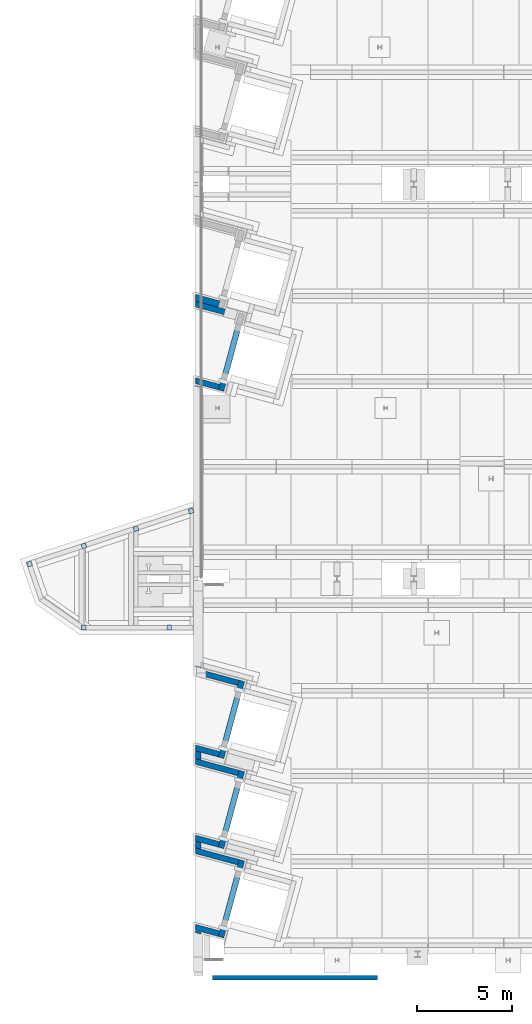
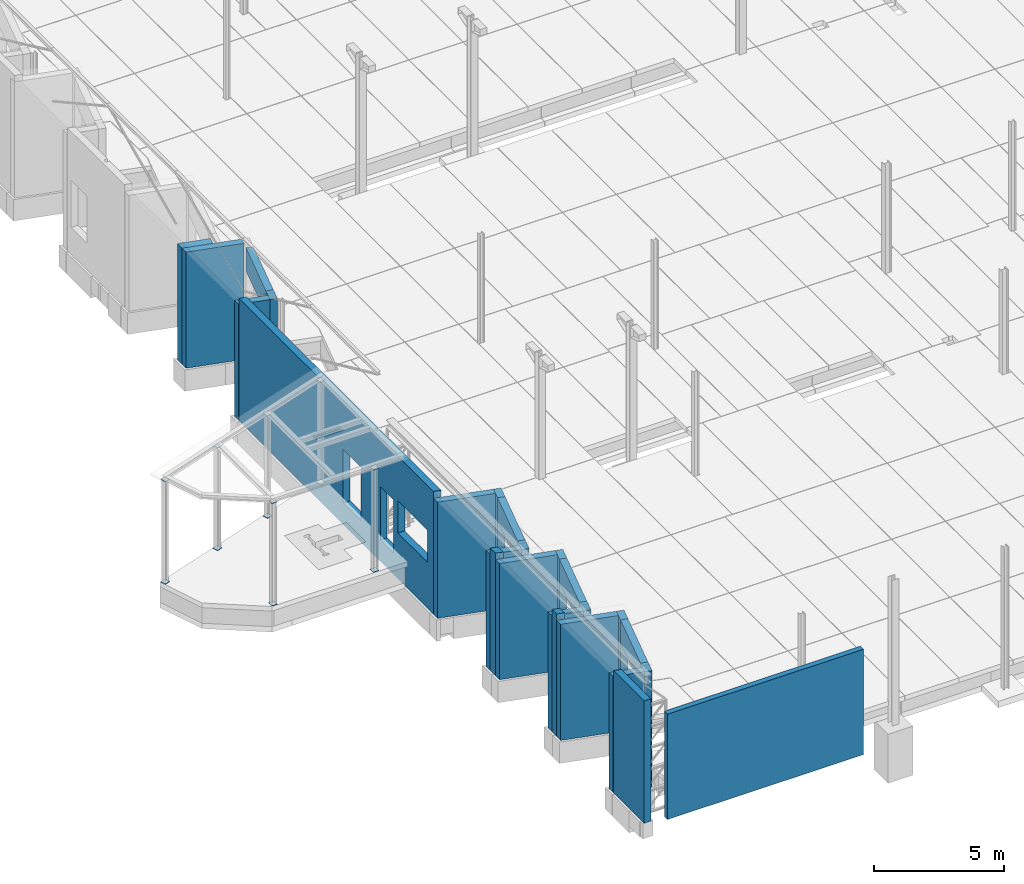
# One storey, part 54 of 59: 25 walls, 12 plates, 4 openings.
"""IFC2X3 building model written with IfcOpenShell, lengths in metres."""

from ifc_helpers import new_model, entity, si_unit, converted_unit, derived_unit, frame, frame_2d, origin, origin_with_axes, place, context, subcontext, project, spatial, polyline, rectangle, outline, extrude, faceted_brep, material, layer, layer_set, layer_usage, element, save


model = new_model("IFC2X3")

# Units and contexts
model_context = context("Model", 3, precision=1e-05, world=origin())
body_context = subcontext(model_context, "Body", "Model", "MODEL_VIEW")
ifc_project = project(units=[si_unit("LENGTHUNIT", "METRE"), si_unit("AREAUNIT", "SQUARE_METRE"), si_unit("VOLUMEUNIT", "CUBIC_METRE"), si_unit("MASSUNIT", "GRAM", prefix="KILO"), converted_unit("PLANEANGLEUNIT", "DEGREE", entity("IfcPlaneAngleMeasure", 0.0174532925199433), si_unit("PLANEANGLEUNIT", "RADIAN"), dimensions=[0, 0, 0, 0, 0, 0, 0]), derived_unit("THERMALTRANSMITTANCEUNIT", [(si_unit("POWERUNIT", "WATT"), 1), (si_unit("THERMODYNAMICTEMPERATUREUNIT", "KELVIN"), -1), (si_unit("LENGTHUNIT", "METRE"), -2)]), derived_unit("VOLUMETRICFLOWRATEUNIT", [(si_unit("LENGTHUNIT", "METRE"), 3), (converted_unit("TIMEUNIT", "hour", entity("IfcTimeMeasure", 3600.0), si_unit("TIMEUNIT", "SECOND"), dimensions=[0, 0, 1, 0, 0, 0, 0]), -1), (si_unit("LENGTHUNIT", "METRE"), -1)])], contexts=[model_context])

# Site, building, storey
site_placement = place(None, origin())
site = spatial("IfcSite", under=ifc_project, at=site_placement, Name="TWP_Speiseverteilzentrum SBW VZ II", CompositionType="ELEMENT")
building_placement = place(site_placement, origin())
building = spatial("IfcBuilding", under=site, at=building_placement, Name="Speiseverteilzentrum SBW VZ II", CompositionType="ELEMENT")
storey_placement = place(building_placement, frame((0.0, 0.0, 1.7307)))
storey = spatial("IfcBuildingStorey", under=building, at=storey_placement, Name="EG_Produktion_FFB", CompositionType="ELEMENT", Elevation=1.7307)

# Plates
ifc_material_1 = material(Name="S235")
plate_1_placement = place(storey_placement, frame((0.435475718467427, 31.4189515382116, 0.0)))
element("IfcPlate", 1, at=plate_1_placement, inside=storey, material=ifc_material_1, Name="Fußplatte", ObjectType="PLATE", context=body_context, shape_type="Brep", body=[
    faceted_brep([(0.237296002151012, 0.315976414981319, 0.0), (0.237296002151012, 0.315976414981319, 0.015), (0.0, 0.237296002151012, 0.015), (0.0, 0.237296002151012, 0.0), (0.0786804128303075, 0.0, 0.0), (0.315976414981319, 0.0786804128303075, 0.0), (0.315976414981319, 0.0786804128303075, 0.015), (0.0786804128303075, 0.0, 0.015)], [[[0, 1, 2, 3]], [[4, 5, 0, 3]], [[5, 6, 1, 0]], [[6, 7, 2, 1]], [[7, 6, 5, 4]], [[4, 3, 2, 7]]], orient=[[False], [False], [False], [False], [False], [False]]),
])
ifc_material_2 = material(Name="S235")
plate_2_placement = place(storey_placement, frame((3.29771696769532, 32.3679870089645, 0.0)))
element("IfcPlate", 2, at=plate_2_placement, inside=storey, material=ifc_material_2, Name="Fußplatte", ObjectType="PLATE", context=body_context, shape_type="Brep", body=[
    faceted_brep([(0.237296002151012, 0.315976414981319, 0.0), (0.237296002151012, 0.315976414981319, 0.015), (0.0, 0.237296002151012, 0.015), (0.0, 0.237296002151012, 0.0), (0.0786804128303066, 0.0, 0.0), (0.315976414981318, 0.0786804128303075, 0.0), (0.315976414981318, 0.0786804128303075, 0.015), (0.0786804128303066, 0.0, 0.015)], [[[0, 1, 2, 3]], [[4, 5, 0, 3]], [[5, 6, 1, 0]], [[6, 7, 2, 1]], [[7, 6, 5, 4]], [[4, 3, 2, 7]]], orient=[[False], [False], [False], [False], [False], [False]]),
])
ifc_material_3 = material(Name="S235")
plate_3_placement = place(storey_placement, frame((6.05035059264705, 33.2806797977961, 0.0)))
element("IfcPlate", 3, at=plate_3_placement, inside=storey, material=ifc_material_3, Name="Fußplatte", ObjectType="PLATE", context=body_context, shape_type="Brep", body=[
    faceted_brep([(0.237296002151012, 0.315976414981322, 0.0), (0.237296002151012, 0.315976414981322, 0.015), (0.0, 0.237296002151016, 0.015), (0.0, 0.237296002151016, 0.0), (0.0786804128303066, 0.0, 0.0), (0.315976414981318, 0.0786804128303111, 0.0), (0.315976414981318, 0.0786804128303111, 0.015), (0.0786804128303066, 0.0, 0.015)], [[[0, 1, 2, 3]], [[4, 5, 0, 3]], [[5, 6, 1, 0]], [[6, 7, 2, 1]], [[7, 6, 5, 4]], [[4, 3, 2, 7]]], orient=[[False], [False], [False], [False], [False], [False]]),
])
ifc_material_4 = material(Name="S235")
plate_4_placement = place(storey_placement, frame((3.33070517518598, 28.1099999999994, 0.0)))
element("IfcPlate", 4, at=plate_4_placement, inside=storey, material=ifc_material_4, Name="Fußplatte", ObjectType="PLATE", context=body_context, shape_type="Brep", body=[
    faceted_brep([(0.25, 0.25, 0.0), (0.25, 0.25, 0.015), (0.0, 0.25, 0.015), (0.0, 0.25, 0.0), (0.0, 0.0, 0.0), (0.25, 0.0, 0.0), (0.25, 0.0, 0.015), (0.0, 0.0, 0.015)], [[[0, 1, 2, 3]], [[4, 5, 0, 3]], [[5, 6, 1, 0]], [[6, 7, 2, 1]], [[7, 6, 5, 4]], [[4, 3, 2, 7]]], orient=[[False], [False], [False], [False], [False], [False]]),
])
ifc_material_5 = material(Name="S235")
plate_5_placement = place(storey_placement, frame((7.83070517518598, 28.1099999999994, 0.0)))
element("IfcPlate", 5, at=plate_5_placement, inside=storey, material=ifc_material_5, Name="Fußplatte", ObjectType="PLATE", context=body_context, shape_type="Brep", body=[
    faceted_brep([(0.25, 0.25, 0.0), (0.25, 0.25, 0.015), (0.0, 0.25, 0.015), (0.0, 0.25, 0.0), (0.0, 0.0, 0.0), (0.25, 0.0, 0.0), (0.25, 0.0, 0.015), (0.0, 0.0, 0.015)], [[[0, 1, 2, 3]], [[4, 5, 0, 3]], [[5, 6, 1, 0]], [[6, 7, 2, 1]], [[7, 6, 5, 4]], [[4, 3, 2, 7]]], orient=[[False], [False], [False], [False], [False], [False]]),
])
ifc_material_6 = material(Name="S235")
plate_6_placement = place(storey_placement, frame((0.435475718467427, 31.4189515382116, 4.8038)))
element("IfcPlate", 6, at=plate_6_placement, inside=storey, material=ifc_material_6, Name="Kopfplatte", ObjectType="PLATE", context=body_context, shape_type="Brep", body=[
    faceted_brep([(0.237296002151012, 0.315976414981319, 0.0), (0.237296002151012, 0.315976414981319, 0.015), (0.0, 0.237296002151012, 0.015), (0.0, 0.237296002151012, 0.0), (0.0786804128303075, 0.0, 0.0), (0.315976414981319, 0.0786804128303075, 0.0), (0.315976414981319, 0.0786804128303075, 0.015), (0.0786804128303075, 0.0, 0.015)], [[[0, 1, 2, 3]], [[4, 5, 0, 3]], [[5, 6, 1, 0]], [[6, 7, 2, 1]], [[7, 6, 5, 4]], [[4, 3, 2, 7]]], orient=[[False], [False], [False], [False], [False], [False]]),
])
ifc_material_7 = material(Name="S235")
plate_7_placement = place(storey_placement, frame((3.29771696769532, 32.3679870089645, 4.8038)))
element("IfcPlate", 7, at=plate_7_placement, inside=storey, material=ifc_material_7, Name="Kopfplatte", ObjectType="PLATE", context=body_context, shape_type="Brep", body=[
    faceted_brep([(0.237296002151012, 0.315976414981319, 0.0), (0.237296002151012, 0.315976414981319, 0.015), (0.0, 0.237296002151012, 0.015), (0.0, 0.237296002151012, 0.0), (0.0786804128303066, 0.0, 0.0), (0.315976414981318, 0.0786804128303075, 0.0), (0.315976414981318, 0.0786804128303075, 0.015), (0.0786804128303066, 0.0, 0.015)], [[[0, 1, 2, 3]], [[4, 5, 0, 3]], [[5, 6, 1, 0]], [[6, 7, 2, 1]], [[7, 6, 5, 4]], [[4, 3, 2, 7]]], orient=[[False], [False], [False], [False], [False], [False]]),
])
ifc_material_8 = material(Name="S235")
plate_8_placement = place(storey_placement, frame((3.33070517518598, 28.1099999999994, 4.8038)))
element("IfcPlate", 8, at=plate_8_placement, inside=storey, material=ifc_material_8, Name="Kopfplatte", ObjectType="PLATE", context=body_context, shape_type="Brep", body=[
    faceted_brep([(0.25, 0.25, 0.0), (0.25, 0.25, 0.015), (0.0, 0.25, 0.015), (0.0, 0.25, 0.0), (0.0, 0.0, 0.0), (0.25, 0.0, 0.0), (0.25, 0.0, 0.015), (0.0, 0.0, 0.015)], [[[0, 1, 2, 3]], [[4, 5, 0, 3]], [[5, 6, 1, 0]], [[6, 7, 2, 1]], [[7, 6, 5, 4]], [[4, 3, 2, 7]]], orient=[[False], [False], [False], [False], [False], [False]]),
])
ifc_material_9 = material(Name="S235")
plate_9_placement = place(storey_placement, frame((6.05035059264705, 33.2806797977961, 4.8038)))
element("IfcPlate", 9, at=plate_9_placement, inside=storey, material=ifc_material_9, Name="Kopfplatte", ObjectType="PLATE", context=body_context, shape_type="Brep", body=[
    faceted_brep([(0.237296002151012, 0.315976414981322, 0.0), (0.237296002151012, 0.315976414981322, 0.015), (0.0, 0.237296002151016, 0.015), (0.0, 0.237296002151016, 0.0), (0.0786804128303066, 0.0, 0.0), (0.315976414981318, 0.0786804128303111, 0.0), (0.315976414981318, 0.0786804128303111, 0.015), (0.0786804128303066, 0.0, 0.015)], [[[0, 1, 2, 3]], [[4, 5, 0, 3]], [[5, 6, 1, 0]], [[6, 7, 2, 1]], [[7, 6, 5, 4]], [[4, 3, 2, 7]]], orient=[[False], [False], [False], [False], [False], [False]]),
])
ifc_material_10 = material(Name="S235")
plate_10_placement = place(storey_placement, frame((7.83070517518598, 28.1099999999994, 4.8038)))
element("IfcPlate", 10, at=plate_10_placement, inside=storey, material=ifc_material_10, Name="Kopfplatte", ObjectType="PLATE", context=body_context, shape_type="Brep", body=[
    faceted_brep([(0.25, 0.25, 0.0), (0.25, 0.25, 0.015), (0.0, 0.25, 0.015), (0.0, 0.25, 0.0), (0.0, 0.0, 0.0), (0.25, 0.0, 0.0), (0.25, 0.0, 0.015), (0.0, 0.0, 0.015)], [[[0, 1, 2, 3]], [[4, 5, 0, 3]], [[5, 6, 1, 0]], [[6, 7, 2, 1]], [[7, 6, 5, 4]], [[4, 3, 2, 7]]], orient=[[False], [False], [False], [False], [False], [False]]),
])
ifc_material_11 = material(Name="S235")
plate_11_placement = place(storey_placement, frame((8.95502358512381, 34.2072639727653, 0.0)))
element("IfcPlate", 11, at=plate_11_placement, inside=storey, material=ifc_material_11, Name="Fußplatte", ObjectType="PLATE", context=body_context, shape_type="Brep", body=[
    faceted_brep([(0.237296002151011, 0.315976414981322, 0.0), (0.237296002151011, 0.315976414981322, 0.015), (0.0, 0.237296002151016, 0.015), (0.0, 0.237296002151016, 0.0), (0.0786804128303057, 0.0, 0.0), (0.315976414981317, 0.0786804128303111, 0.0), (0.315976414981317, 0.0786804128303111, 0.015), (0.0786804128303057, 0.0, 0.015)], [[[0, 1, 2, 3]], [[4, 5, 0, 3]], [[5, 6, 1, 0]], [[6, 7, 2, 1]], [[7, 6, 5, 4]], [[4, 3, 2, 7]]], orient=[[False], [False], [False], [False], [False], [False]]),
])
ifc_material_12 = material(Name="S235")
plate_12_placement = place(storey_placement, frame((8.95502358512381, 34.2072639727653, 4.8038)))
element("IfcPlate", 12, at=plate_12_placement, inside=storey, material=ifc_material_12, Name="Kopfplatte", ObjectType="PLATE", context=body_context, shape_type="Brep", body=[
    faceted_brep([(0.237296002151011, 0.315976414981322, 0.0), (0.237296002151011, 0.315976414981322, 0.015), (0.0, 0.237296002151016, 0.015), (0.0, 0.237296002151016, 0.0), (0.0786804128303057, 0.0, 0.0), (0.315976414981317, 0.0786804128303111, 0.0), (0.315976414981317, 0.0786804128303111, 0.015), (0.0786804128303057, 0.0, 0.015)], [[[0, 1, 2, 3]], [[4, 5, 0, 3]], [[5, 6, 1, 0]], [[6, 7, 2, 1]], [[7, 6, 5, 4]], [[4, 3, 2, 7]]], orient=[[False], [False], [False], [False], [False], [False]]),
])

# Walls
ifc_material_13 = material(Name="Stahlbeton")
ifc_layer_1 = layer(ifc_material_13, 0.29999999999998)
ifc_layer_set_1 = layer_set([ifc_layer_1], Name="HA_WAN_STB_0,300_xxx")
ifc_layer_usage_1 = layer_usage(ifc_layer_set_1, "AXIS2", "POSITIVE", 0.0)
wall_1_placement = place(storey_placement, frame((10.6989640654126, 12.5261194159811, -1.25), z_axis=(0.0, 0.0, 1.0), x_axis=(-0.261013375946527, -0.965335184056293, 0.0)))
element("IfcWallStandardCase", 13, at=wall_1_placement, inside=storey, material=ifc_layer_usage_1, Name="Stb.-Rahmen", context=body_context, shape_type="SweptSolid", body=[
    extrude(rectangle(XDim=0.599999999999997, YDim=0.29999999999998, at=frame_2d((0.299999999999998, 0.14999999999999), x_axis=(1.0, 0.0))), origin_with_axes(), (0.0, 0.0, 1.0), 5.45),
])
ifc_material_14 = material(Name="Stahlbeton")
ifc_layer_2 = layer(ifc_material_14, 0.299999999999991)
ifc_layer_set_2 = layer_set([ifc_layer_2], Name="HA_WAN_STB_0,300_xxx")
ifc_layer_usage_2 = layer_usage(ifc_layer_set_2, "AXIS2", "POSITIVE", 0.0)
wall_2_placement = place(storey_placement, frame((11.4818206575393, 15.4214461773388, 3.12), z_axis=(0.0, 0.0, 1.0), x_axis=(-0.261013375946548, -0.965335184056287, 0.0)))
element("IfcWallStandardCase", 14, at=wall_2_placement, inside=storey, material=ifc_layer_usage_2, Name="Stb.-Rahmen", context=body_context, shape_type="SweptSolid", body=[
    extrude(rectangle(XDim=2.99929683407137, YDim=0.299999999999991, at=frame_2d((1.49964841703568, 0.149999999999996), x_axis=(1.0, 0.0))), origin_with_axes(), (0.0, 0.0, 1.0), 1.08),
])
ifc_material_15 = material(Name="Stahlbeton")
ifc_layer_3 = layer(ifc_material_15, 0.299999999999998)
ifc_layer_set_3 = layer_set([ifc_layer_3], Name="HA_WAN_STB_0,300_xxx")
ifc_layer_usage_3 = layer_usage(ifc_layer_set_3, "AXIS2", "POSITIVE", 0.0)
wall_3_placement = place(storey_placement, frame((11.6384286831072, 16.0006472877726, -1.25), z_axis=(0.0, 0.0, 1.0), x_axis=(-0.261013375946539, -0.96533518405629, 0.0)))
element("IfcWallStandardCase", 15, at=wall_3_placement, inside=storey, material=ifc_layer_usage_3, Name="Stb.-Rahmen", context=body_context, shape_type="SweptSolid", body=[
    extrude(rectangle(XDim=0.599999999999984, YDim=0.299999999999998, at=frame_2d((0.299999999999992, 0.149999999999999), x_axis=(1.0, 0.0))), origin_with_axes(), (0.0, 0.0, 1.0), 5.45),
])
ifc_material_16 = material(Name="Stahlbeton")
ifc_layer_4 = layer(ifc_material_16, 0.29999999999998)
ifc_layer_set_4 = layer_set([ifc_layer_4], Name="HA_WAN_STB_0,300_xxx")
ifc_layer_usage_4 = layer_usage(ifc_layer_set_4, "AXIS2", "POSITIVE", 0.0)
wall_4_placement = place(storey_placement, frame((10.6989640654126, 17.228683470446, -1.25), z_axis=(0.0, 0.0, 1.0), x_axis=(-0.261013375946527, -0.965335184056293, 0.0)))
element("IfcWallStandardCase", 16, at=wall_4_placement, inside=storey, material=ifc_layer_usage_4, Name="Stb.-Rahmen", context=body_context, shape_type="SweptSolid", body=[
    extrude(rectangle(XDim=0.599999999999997, YDim=0.29999999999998, at=frame_2d((0.299999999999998, 0.14999999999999), x_axis=(1.0, 0.0))), origin_with_axes(), (0.0, 0.0, 1.0), 5.45),
])
ifc_material_17 = material(Name="Stahlbeton")
ifc_layer_5 = layer(ifc_material_17, 0.299999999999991)
ifc_layer_set_5 = layer_set([ifc_layer_5], Name="HA_WAN_STB_0,300_xxx")
ifc_layer_usage_5 = layer_usage(ifc_layer_set_5, "AXIS2", "POSITIVE", 0.0)
wall_5_placement = place(storey_placement, frame((11.4818206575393, 20.1240102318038, 3.12), z_axis=(0.0, 0.0, 1.0), x_axis=(-0.261013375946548, -0.965335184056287, 0.0)))
element("IfcWallStandardCase", 17, at=wall_5_placement, inside=storey, material=ifc_layer_usage_5, Name="Stb.-Rahmen", context=body_context, shape_type="SweptSolid", body=[
    extrude(rectangle(XDim=2.99929683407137, YDim=0.299999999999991, at=frame_2d((1.49964841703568, 0.149999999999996), x_axis=(1.0, 0.0))), origin_with_axes(), (0.0, 0.0, 1.0), 1.08),
])
ifc_material_18 = material(Name="Stahlbeton")
ifc_layer_6 = layer(ifc_material_18, 0.299999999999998)
ifc_layer_set_6 = layer_set([ifc_layer_6], Name="HA_WAN_STB_0,300_xxx")
ifc_layer_usage_6 = layer_usage(ifc_layer_set_6, "AXIS2", "POSITIVE", 0.0)
wall_6_placement = place(storey_placement, frame((11.6384286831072, 20.7032113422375, -1.25), z_axis=(0.0, 0.0, 1.0), x_axis=(-0.261013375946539, -0.96533518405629, 0.0)))
element("IfcWallStandardCase", 18, at=wall_6_placement, inside=storey, material=ifc_layer_usage_6, Name="Stb.-Rahmen", context=body_context, shape_type="SweptSolid", body=[
    extrude(rectangle(XDim=0.599999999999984, YDim=0.299999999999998, at=frame_2d((0.299999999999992, 0.149999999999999), x_axis=(1.0, 0.0))), origin_with_axes(), (0.0, 0.0, 1.0), 5.45),
])
ifc_material_19 = material(Name="Stahlbeton")
ifc_layer_7 = layer(ifc_material_19, 0.29999999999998)
ifc_layer_set_7 = layer_set([ifc_layer_7], Name="HA_WAN_STB_0,300_xxx")
ifc_layer_usage_7 = layer_usage(ifc_layer_set_7, "AXIS2", "POSITIVE", 0.0)
wall_7_placement = place(storey_placement, frame((10.6989640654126, 21.9802181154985, -1.25), z_axis=(0.0, 0.0, 1.0), x_axis=(-0.261013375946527, -0.965335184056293, 0.0)))
element("IfcWallStandardCase", 19, at=wall_7_placement, inside=storey, material=ifc_layer_usage_7, Name="Stb.-Rahmen", context=body_context, shape_type="SweptSolid", body=[
    extrude(rectangle(XDim=0.599999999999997, YDim=0.29999999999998, at=frame_2d((0.299999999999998, 0.14999999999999), x_axis=(1.0, 0.0))), origin_with_axes(), (0.0, 0.0, 1.0), 5.45),
])
ifc_material_20 = material(Name="Stahlbeton")
ifc_layer_8 = layer(ifc_material_20, 0.299999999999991)
ifc_layer_set_8 = layer_set([ifc_layer_8], Name="HA_WAN_STB_0,300_xxx")
ifc_layer_usage_8 = layer_usage(ifc_layer_set_8, "AXIS2", "POSITIVE", 0.0)
wall_8_placement = place(storey_placement, frame((11.4818206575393, 24.8755448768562, 3.12), z_axis=(0.0, 0.0, 1.0), x_axis=(-0.261013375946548, -0.965335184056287, 0.0)))
element("IfcWallStandardCase", 20, at=wall_8_placement, inside=storey, material=ifc_layer_usage_8, Name="HA_WAN_STB_0,300_xxx", context=body_context, shape_type="SweptSolid", body=[
    extrude(rectangle(XDim=2.99929683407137, YDim=0.299999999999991, at=frame_2d((1.49964841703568, 0.149999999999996), x_axis=(1.0, 0.0))), origin_with_axes(), (0.0, 0.0, 1.0), 1.08),
])
ifc_material_21 = material(Name="Stahlbeton")
ifc_layer_9 = layer(ifc_material_21, 0.299999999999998)
ifc_layer_set_9 = layer_set([ifc_layer_9], Name="HA_WAN_STB_0,300_xxx")
ifc_layer_usage_9 = layer_usage(ifc_layer_set_9, "AXIS2", "POSITIVE", 0.0)
wall_9_placement = place(storey_placement, frame((11.6384286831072, 25.45474598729, -1.25), z_axis=(0.0, 0.0, 1.0), x_axis=(-0.261013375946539, -0.96533518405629, 0.0)))
element("IfcWallStandardCase", 21, at=wall_9_placement, inside=storey, material=ifc_layer_usage_9, Name="Stb.-Rahmen", context=body_context, shape_type="SweptSolid", body=[
    extrude(rectangle(XDim=0.599999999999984, YDim=0.299999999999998, at=frame_2d((0.299999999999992, 0.149999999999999), x_axis=(1.0, 0.0))), origin_with_axes(), (0.0, 0.0, 1.0), 5.45),
])
ifc_material_22 = material(Name="Stahlbeton")
ifc_layer_10 = layer(ifc_material_22, 0.29999999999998)
ifc_layer_set_10 = layer_set([ifc_layer_10], Name="HA_WAN_STB_0,300_xxx")
ifc_layer_usage_10 = layer_usage(ifc_layer_set_10, "AXIS2", "POSITIVE", 0.0)
wall_10_placement = place(storey_placement, frame((10.6989640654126, 41.3375375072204, -1.25), z_axis=(0.0, 0.0, 1.0), x_axis=(-0.261013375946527, -0.965335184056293, 0.0)))
element("IfcWallStandardCase", 22, at=wall_10_placement, inside=storey, material=ifc_layer_usage_10, Name="Stb.-Rahmen", context=body_context, shape_type="SweptSolid", body=[
    extrude(rectangle(XDim=0.599999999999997, YDim=0.29999999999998, at=frame_2d((0.299999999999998, 0.14999999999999), x_axis=(1.0, 0.0))), origin_with_axes(), (0.0, 0.0, 1.0), 5.45),
])
ifc_material_23 = material(Name="Stahlbeton")
ifc_layer_11 = layer(ifc_material_23, 0.299999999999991)
ifc_layer_set_11 = layer_set([ifc_layer_11], Name="HA_WAN_STB_0,300_xxx")
ifc_layer_usage_11 = layer_usage(ifc_layer_set_11, "AXIS2", "POSITIVE", 0.0)
wall_11_placement = place(storey_placement, frame((11.4818206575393, 44.2328642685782, 3.12), z_axis=(0.0, 0.0, 1.0), x_axis=(-0.261013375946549, -0.965335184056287, 0.0)))
element("IfcWallStandardCase", 23, at=wall_11_placement, inside=storey, material=ifc_layer_usage_11, Name="Stb.-Rahmen", context=body_context, shape_type="SweptSolid", body=[
    extrude(rectangle(XDim=2.99929683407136, YDim=0.299999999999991, at=frame_2d((1.49964841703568, 0.149999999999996), x_axis=(1.0, 0.0))), origin_with_axes(), (0.0, 0.0, 1.0), 1.08),
])
ifc_material_24 = material(Name="Stahlbeton")
ifc_layer_12 = layer(ifc_material_24, 0.300000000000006)
ifc_layer_set_12 = layer_set([ifc_layer_12], Name="HA_WAN_STB_0,300_xxx")
ifc_layer_usage_12 = layer_usage(ifc_layer_set_12, "AXIS2", "POSITIVE", 0.0)
wall_12_placement = place(storey_placement, frame((10.6206600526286, 12.2365188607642, -1.25), z_axis=(0.0, 0.0, 1.0), x_axis=(-0.965335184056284, 0.261013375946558, 0.0)))
element("IfcWallStandardCase", 24, at=wall_12_placement, inside=storey, material=ifc_layer_usage_12, Name="Stb.-Rahmen", context=body_context, shape_type="SweptSolid", body=[
    extrude(outline(polyline([(-1.16067658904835, -0.613831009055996), (0.165971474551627, -0.613831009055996), (0.0848555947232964, -0.31383100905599), (-1.16067658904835, -0.313831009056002), (-1.16067658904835, -0.613831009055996)])), frame((1.16067658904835, 0.613831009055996, 0.0), z_axis=(0.0, 0.0, 1.0), x_axis=(1.0, 0.0, 0.0)), (0.0, 0.0, 1.0), 5.45),
])
ifc_material_25 = material(Name="Stahlbeton")
ifc_layer_13 = layer(ifc_material_25, 0.300000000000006)
ifc_layer_set_13 = layer_set([ifc_layer_13], Name="HA_WAN_STB_0,300_xxx")
ifc_layer_usage_13 = layer_usage(ifc_layer_set_13, "AXIS2", "POSITIVE", 0.0)
wall_13_placement = place(storey_placement, frame((11.6384286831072, 16.0006472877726, -1.25), z_axis=(0.0, 0.0, 1.0), x_axis=(-0.965335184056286, 0.261013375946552, 0.0)))
element("IfcWallStandardCase", 25, at=wall_13_placement, inside=storey, material=ifc_layer_usage_13, Name="Stb.-Rahmen", context=body_context, shape_type="SweptSolid", body=[
    extrude(outline(polyline([(-2.14316445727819, -0.879482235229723), (0.237799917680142, -0.879482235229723), (0.156684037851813, -0.579482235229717), (-2.14316445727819, -0.579482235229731), (-2.14316445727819, -0.879482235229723)])), frame((2.14316445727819, 0.879482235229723, 0.0), z_axis=(0.0, 0.0, 1.0), x_axis=(1.0, 0.0, 0.0)), (0.0, 0.0, 1.0), 5.45),
])
ifc_material_26 = material(Name="Stahlbeton")
ifc_layer_14 = layer(ifc_material_26, 0.300000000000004)
ifc_layer_set_14 = layer_set([ifc_layer_14], Name="HA_WAN_STB_0,300_xxx")
ifc_layer_usage_14 = layer_usage(ifc_layer_set_14, "AXIS2", "POSITIVE", 0.0)
wall_14_placement = place(storey_placement, frame((9.33999999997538, 16.9745829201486, -1.25), z_axis=(0.0, 0.0, 1.0), x_axis=(0.0, -1.0, 0.0)))
element("IfcWallStandardCase", 26, at=wall_14_placement, inside=storey, material=ifc_layer_usage_14, Name="Stb.-Rahmen", context=body_context, shape_type="SweptSolid", body=[
    extrude(outline(polyline([(-0.433587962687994, 0.0), (-0.0811158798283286, 0.0), (0.0, 0.300000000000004), (-0.352472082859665, 0.300000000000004), (-0.433587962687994, 0.0)])), frame((0.433587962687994, 0.0, 0.0), z_axis=(0.0, 0.0, 1.0), x_axis=(1.0, 0.0, 0.0)), (0.0, 0.0, 1.0), 5.75),
])
ifc_material_27 = material(Name="Stahlbeton")
ifc_layer_15 = layer(ifc_material_27, 0.300000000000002)
ifc_layer_set_15 = layer_set([ifc_layer_15], Name="HA_WAN_STB_0,300_xxx")
ifc_layer_usage_15 = layer_usage(ifc_layer_set_15, "AXIS2", "POSITIVE", 0.0)
wall_15_placement = place(storey_placement, frame((10.6206600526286, 16.9390829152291, -1.25), z_axis=(0.0, 0.0, 1.0), x_axis=(-0.965335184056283, 0.261013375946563, 0.0)))
element("IfcWallStandardCase", 27, at=wall_15_placement, inside=storey, material=ifc_layer_usage_15, Name="Stb.-Rahmen", context=body_context, shape_type="SweptSolid", body=[
    extrude(outline(polyline([(-1.16067658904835, -0.613831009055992), (0.165971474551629, -0.613831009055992), (0.084855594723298, -0.313831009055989), (-1.16067658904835, -0.313831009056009), (-1.16067658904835, -0.613831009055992)])), frame((1.16067658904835, 0.613831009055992, 0.0), z_axis=(0.0, 0.0, 1.0), x_axis=(1.0, 0.0, 0.0)), (0.0, 0.0, 1.0), 5.45),
])
ifc_material_28 = material(Name="Stahlbeton")
ifc_layer_16 = layer(ifc_material_28, 0.300000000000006)
ifc_layer_set_16 = layer_set([ifc_layer_16], Name="HA_WAN_STB_0,300_xxx")
ifc_layer_usage_16 = layer_usage(ifc_layer_set_16, "AXIS2", "POSITIVE", 0.0)
wall_16_placement = place(storey_placement, frame((11.6384286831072, 20.7032113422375, -1.25), z_axis=(0.0, 0.0, 1.0), x_axis=(-0.965335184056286, 0.261013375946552, 0.0)))
element("IfcWallStandardCase", 28, at=wall_16_placement, inside=storey, material=ifc_layer_usage_16, Name="Stb.-Rahmen", context=body_context, shape_type="SweptSolid", body=[
    extrude(outline(polyline([(-2.14316445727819, -0.879482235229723), (0.237799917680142, -0.879482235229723), (0.156684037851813, -0.579482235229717), (-2.14316445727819, -0.579482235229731), (-2.14316445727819, -0.879482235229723)])), frame((2.14316445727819, 0.879482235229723, 0.0), z_axis=(0.0, 0.0, 1.0), x_axis=(1.0, 0.0, 0.0)), (0.0, 0.0, 1.0), 5.45),
])
ifc_material_29 = material(Name="Stahlbeton")
ifc_layer_17 = layer(ifc_material_29, 0.300000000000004)
ifc_layer_set_17 = layer_set([ifc_layer_17], Name="HA_WAN_STB_0,300_xxx")
ifc_layer_usage_17 = layer_usage(ifc_layer_set_17, "AXIS2", "POSITIVE", 0.0)
wall_17_placement = place(storey_placement, frame((9.33999999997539, 21.726117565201, -1.25), z_axis=(0.0, 0.0, 1.0), x_axis=(0.0, -1.0, 0.0)))
element("IfcWallStandardCase", 29, at=wall_17_placement, inside=storey, material=ifc_layer_usage_17, Name="Stb.-Rahmen", context=body_context, shape_type="SweptSolid", body=[
    extrude(outline(polyline([(-0.482558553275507, 0.0), (-0.0811158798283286, 0.0), (0.0, 0.300000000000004), (-0.401442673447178, 0.300000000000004), (-0.482558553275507, 0.0)])), frame((0.482558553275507, 0.0, 0.0), z_axis=(0.0, 0.0, 1.0), x_axis=(1.0, 0.0, 0.0)), (0.0, 0.0, 1.0), 5.75),
])
ifc_material_30 = material(Name="Stahlbeton")
ifc_layer_18 = layer(ifc_material_30, 0.300000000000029)
ifc_layer_set_18 = layer_set([ifc_layer_18], Name="HA_WAN_STB_0,300_xxx")
ifc_layer_usage_18 = layer_usage(ifc_layer_set_18, "AXIS2", "POSITIVE", 0.0)
wall_18_placement = place(storey_placement, frame((10.6206600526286, 21.6906175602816, -1.25), z_axis=(0.0, 0.0, 1.0), x_axis=(-0.96533518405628, 0.261013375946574, 0.0)))
element("IfcWallStandardCase", 30, at=wall_18_placement, inside=storey, material=ifc_layer_usage_18, Name="Stb.-Rahmen", context=body_context, shape_type="SweptSolid", body=[
    extrude(outline(polyline([(-1.16067658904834, -0.613831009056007), (0.165971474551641, -0.613831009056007), (0.0848555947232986, -0.313831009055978), (-1.16067658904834, -0.313831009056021), (-1.16067658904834, -0.613831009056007)])), frame((1.16067658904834, 0.613831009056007, 0.0), z_axis=(0.0, 0.0, 1.0), x_axis=(1.0, 0.0, 0.0)), (0.0, 0.0, 1.0), 5.45),
])
ifc_material_31 = material(Name="Stahlbeton")
ifc_layer_19 = layer(ifc_material_31, 0.300000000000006)
ifc_layer_set_19 = layer_set([ifc_layer_19], Name="HA_WAN_STB_0,300_xxx")
ifc_layer_usage_19 = layer_usage(ifc_layer_set_19, "AXIS2", "POSITIVE", 0.0)
wall_19_placement = place(storey_placement, frame((11.6384286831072, 25.45474598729, -1.25), z_axis=(0.0, 0.0, 1.0), x_axis=(-0.965335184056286, 0.261013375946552, 0.0)))
element("IfcWallStandardCase", 31, at=wall_19_placement, inside=storey, material=ifc_layer_usage_19, Name="Stb.-Rahmen", context=body_context, shape_type="SweptSolid", body=[
    extrude(outline(polyline([(-2.14316445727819, -0.879482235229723), (0.237799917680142, -0.879482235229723), (0.156684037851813, -0.579482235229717), (-2.14316445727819, -0.579482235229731), (-2.14316445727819, -0.879482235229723)])), frame((2.14316445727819, 0.879482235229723, 0.0), z_axis=(0.0, 0.0, 1.0), x_axis=(1.0, 0.0, 0.0)), (0.0, 0.0, 1.0), 5.45),
])
ifc_material_32 = material(Name="Stahlbeton")
ifc_layer_20 = layer(ifc_material_32, 0.300000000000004)
ifc_layer_set_20 = layer_set([ifc_layer_20], Name="HA_WAN_STB_0,300_xxx")
ifc_layer_usage_20 = layer_usage(ifc_layer_set_20, "AXIS2", "POSITIVE", 0.0)
wall_20_placement = place(storey_placement, frame((9.33999999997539, 12.2409415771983, -1.25), z_axis=(0.0, 0.0, 1.0), x_axis=(1.39224048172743e-14, -1.0, 0.0)))
element("IfcWallStandardCase", 32, at=wall_20_placement, inside=storey, material=ifc_layer_usage_20, Name="Stb.-Außenwand", context=body_context, shape_type="SweptSolid", body=[
    extrude(outline(polyline([(-2.35173518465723, 0.0), (0.0, 0.0), (0.0, 0.300000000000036), (-2.2706193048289, 0.300000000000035), (-2.35173518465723, 0.0)])), frame((2.35173518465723, 0.0, 0.0), z_axis=(0.0, 0.0, 1.0), x_axis=(1.0, 0.0, 0.0)), (0.0, 0.0, 1.0), 5.75),
])
ifc_material_33 = material(Name="Stahlbeton")
ifc_layer_21 = layer(ifc_material_33, 0.300000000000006)
ifc_layer_set_21 = layer_set([ifc_layer_21], Name="HA_WAN_STB_0,300_xxx")
ifc_layer_usage_21 = layer_usage(ifc_layer_set_21, "AXIS2", "POSITIVE", 0.0)
wall_21_placement = place(storey_placement, frame((10.6206600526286, 41.0479369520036, -1.25), z_axis=(0.0, 0.0, 1.0), x_axis=(-0.965335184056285, 0.261013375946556, 0.0)))
element("IfcWallStandardCase", 33, at=wall_21_placement, inside=storey, material=ifc_layer_usage_21, Name="Stb.-Rahmen", context=body_context, shape_type="SweptSolid", body=[
    extrude(outline(polyline([(-1.16067658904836, -0.613831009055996), (0.165971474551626, -0.613831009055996), (0.0848555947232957, -0.31383100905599), (-1.16067658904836, -0.313831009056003), (-1.16067658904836, -0.613831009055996)])), frame((1.16067658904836, 0.613831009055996, 0.0), z_axis=(0.0, 0.0, 1.0), x_axis=(1.0, 0.0, 0.0)), (0.0, 0.0, 1.0), 5.45),
])
ifc_material_34 = material(Name="Stahlbeton")
ifc_layer_22 = layer(ifc_material_34, 0.300000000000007)
ifc_layer_set_22 = layer_set([ifc_layer_22], Name="HA_WAN_STB_0,300_xxx")
ifc_layer_usage_22 = layer_usage(ifc_layer_set_22, "AXIS2", "POSITIVE", 0.0)
wall_22_placement = place(storey_placement, frame((11.6384286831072, 44.8120653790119, -1.25), z_axis=(0.0, 0.0, 1.0), x_axis=(-0.965335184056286, 0.261013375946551, 0.0)))
element("IfcWallStandardCase", 34, at=wall_22_placement, inside=storey, material=ifc_layer_usage_22, Name="Stb.-Rahmen", context=body_context, shape_type="SweptSolid", body=[
    extrude(outline(polyline([(-2.1431644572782, -0.879482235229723), (0.237799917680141, -0.879482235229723), (0.156684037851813, -0.579482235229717), (-2.1431644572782, -0.579482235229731), (-2.1431644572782, -0.879482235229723)])), frame((2.1431644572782, 0.879482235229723, 0.0), z_axis=(0.0, 0.0, 1.0), x_axis=(1.0, 0.0, 0.0)), (0.0, 0.0, 1.0), 5.45),
])
ifc_material_35 = material(Name="Stahlbeton")
ifc_layer_23 = layer(ifc_material_35, 0.348467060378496)
ifc_layer_set_23 = layer_set([ifc_layer_23], Name="HA_WAN_STB_0,300_xxx")
ifc_layer_usage_23 = layer_usage(ifc_layer_set_23, "AXIS2", "POSITIVE", 0.0)
wall_23_placement = place(storey_placement, frame((10.6206600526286, 45.4482364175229, -1.25), z_axis=(0.0, 0.0, 1.0), x_axis=(-0.965335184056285, 0.261013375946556, 0.0)))
element("IfcWallStandardCase", 35, at=wall_23_placement, inside=storey, material=ifc_layer_usage_23, Name="Stb.-Rahmen", context=body_context, shape_type="SweptSolid", body=[
    extrude(outline(polyline([(-1.14846456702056, -0.658996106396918), (0.178183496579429, -0.658996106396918), (0.0839627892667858, -0.310529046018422), (-1.14846456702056, -0.310529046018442), (-1.14846456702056, -0.658996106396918)])), frame((1.14846456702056, 0.658996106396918, 0.0), z_axis=(0.0, 0.0, 1.0), x_axis=(1.0, 0.0, 0.0)), (0.0, 0.0, 1.0), 5.45),
])

# Wall, openings
ifc_material_36 = material(Name="Stahlbeton")
ifc_layer_24 = layer(ifc_material_36, 0.300000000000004)
ifc_layer_set_24 = layer_set([ifc_layer_24], Name="HA_WAN_STB_0,300_xxx")
ifc_layer_usage_24 = layer_usage(ifc_layer_set_24, "AXIS2", "POSITIVE", 0.0)
wall_24_placement = place(storey_placement, frame((9.33999999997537, 41.0523596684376, -1.25), z_axis=(0.0, 0.0, 1.0), x_axis=(7.30269871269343e-16, -1.0, 0.0)))
wall_24 = element("IfcWallStandardCase", 36, at=wall_24_placement, inside=storey, material=ifc_layer_usage_24, Name="Stb.-Außenwand", context=body_context, shape_type="SweptSolid", body=[
    extrude(outline(polyline([(-15.0261887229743, 0.0), (-0.0811158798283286, 0.0), (0.0, 0.300000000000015), (-14.9450728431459, 0.300000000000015), (-15.0261887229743, 0.0)])), frame((15.0261887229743, 0.0, 0.0), z_axis=(0.0, 0.0, 1.0), x_axis=(1.0, 0.0, 0.0)), (0.0, 0.0, 1.0), 5.75),
])
opening_1_placement = place(wall_24_placement, frame((11.8872564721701, 0.300000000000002, 1.0), z_axis=(0.0, -1.0, 0.0), x_axis=(0.0, 0.0, 1.0)))
element("IfcOpeningElement", 37, at=opening_1_placement, cuts=wall_24, Name="HA_TÜR_DRE", ObjectType="SOLIDWALL", context=body_context, shape_type="SweptSolid", body=[
    extrude(outline(polyline([(2.51, 1.01), (2.51, 0.0), (0.0, 0.0), (0.0, 1.01), (2.51, 1.01)])), origin_with_axes(), (0.0, 0.0, 1.0), 0.300000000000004),
])
opening_2_placement = place(wall_24_placement, frame((14.4944222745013, 0.300000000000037, 2.15), z_axis=(0.0, -1.0, 0.0), x_axis=(0.0, 0.0, 1.0)))
element("IfcOpeningElement", 38, at=opening_2_placement, cuts=wall_24, Name="HA_FEN", ObjectType="SOLIDWALL", context=body_context, shape_type="SweptSolid", body=[
    extrude(outline(polyline([(1.51, 2.2605125), (1.51, 0.0), (0.0, 0.0), (0.0, 2.2605125), (1.51, 2.2605125)])), origin_with_axes(), (0.0, 0.0, 1.0), 0.300000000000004),
])
opening_3_placement = place(wall_24_placement, frame((10.3326070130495, 0.300000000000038, 0.0), z_axis=(0.0, -1.0, 0.0), x_axis=(0.0, 0.0, 1.0)))
element("IfcOpeningElement", 39, at=opening_3_placement, cuts=wall_24, Name="Wandnische", ObjectType="SOLIDWALL", context=body_context, shape_type="SweptSolid", body=[
    extrude(outline(polyline([(5.75, 0.165), (5.75, 0.0), (0.0, 0.0), (0.0, 0.165), (5.75, 0.165)])), origin_with_axes(), (0.0, 0.0, 1.0), 0.16),
])
opening_4_placement = place(wall_24_placement, frame((9.39992056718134, 0.300000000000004, 1.0), z_axis=(0.0, -1.0, 0.0), x_axis=(0.0, 0.0, 1.0)))
element("IfcOpeningElement", 40, at=opening_4_placement, cuts=wall_24, Name="HA_TÜR_DRE", ObjectType="SOLIDWALL", context=body_context, shape_type="SweptSolid", body=[
    extrude(outline(polyline([(2.51, 1.385), (2.51, 0.0), (0.0, 0.0), (0.0, 1.385), (2.51, 1.385)])), origin_with_axes(), (0.0, 0.0, 1.0), 0.300000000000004),
])

# Wall
ifc_material_37 = material(Name="KS-XL-16-1.8/DM")
ifc_layer_25 = layer(ifc_material_37, 0.24)
ifc_layer_set_25 = layer_set([ifc_layer_25], Name="HA_WAN_MWK_0,240_xxx")
ifc_layer_usage_25 = layer_usage(ifc_layer_set_25, "AXIS2", "POSITIVE", -0.24)
wall_25_placement = place(storey_placement, frame((10.2375075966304, 9.64920639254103, -1.2378)))
element("IfcWallStandardCase", 41, at=wall_25_placement, inside=storey, material=ifc_layer_usage_25, Name="Mauerwerkswand", context=body_context, shape_type="SweptSolid", body=[
    extrude(rectangle(XDim=8.69999999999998, YDim=0.24, at=frame_2d((4.34999999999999, 0.12), x_axis=(1.0, 0.0))), origin_with_axes(), (0.0, 0.0, 1.0), 4.94665),
])

save(model, "model.ifc")
